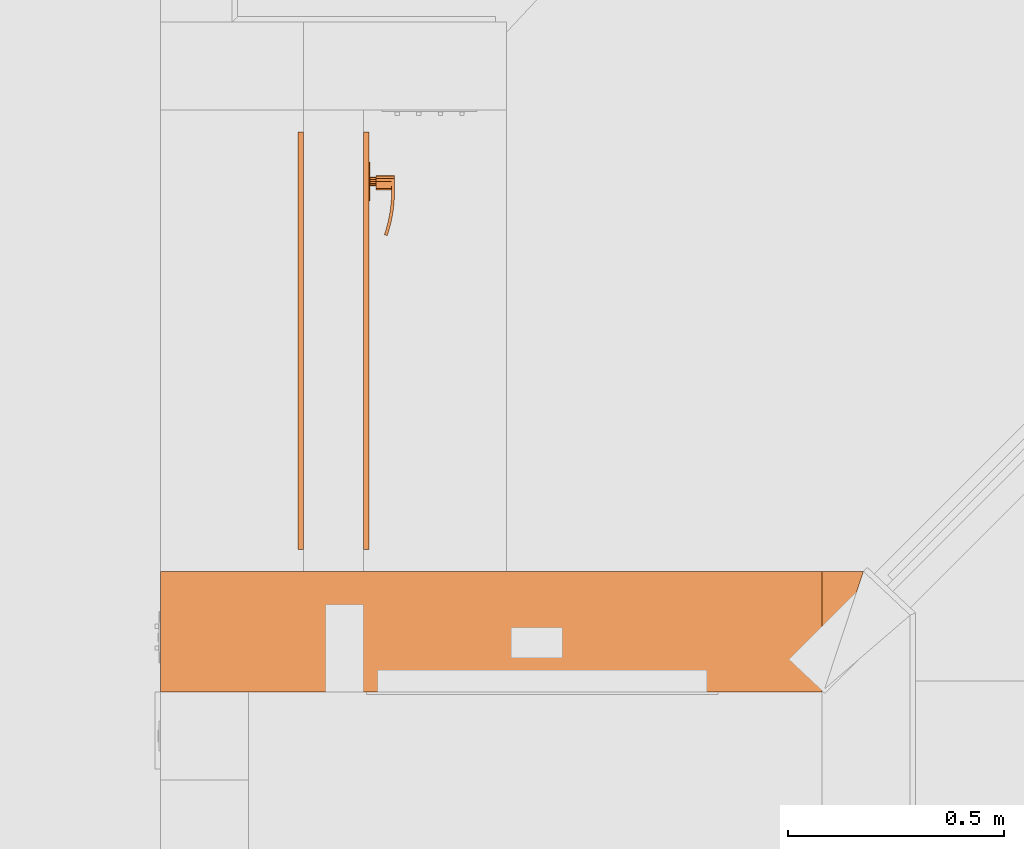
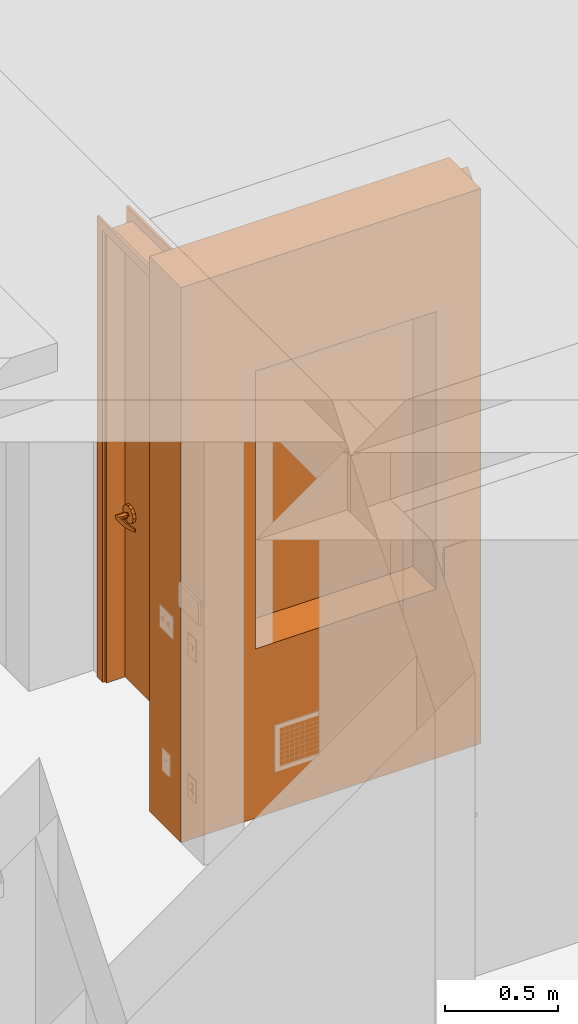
# One storey, part 88 of 103: 2 proxies.
"""IFC2X3 building model written with IfcOpenShell, lengths in inches."""

from ifc_helpers import new_model, entity, si_unit, converted_unit, derived_unit, money_unit, direction, frame, origin_with_axes, place, context, subcontext, project, spatial, open_shell, faceted_brep, surface_model, material, type_object, element, save


model = new_model("IFC2X3")

# Units and contexts
model_context = context("Model", 3, precision=0.00039370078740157, world=origin_with_axes(), true_north=direction((0.0, 1.0)))
plan_context = context("Plan", 3, precision=0.00039370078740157, world=origin_with_axes(), true_north=direction((0.0, 1.0)))
body_context = subcontext(model_context, "Body", "Model", "MODEL_VIEW")
ifc_project = project(units=[converted_unit("LENGTHUNIT", "INCH", entity("IfcPositiveLengthMeasure", 0.0254), si_unit("LENGTHUNIT", "METRE"), dimensions=[1, 0, 0, 0, 0, 0, 0]), converted_unit("AREAUNIT", "SQUARE_FOOT", entity("IfcPositiveLengthMeasure", 0.09290304), si_unit("AREAUNIT", "SQUARE_METRE"), dimensions=[2, 0, 0, 0, 0, 0, 0]), si_unit("PLANEANGLEUNIT", "RADIAN"), si_unit("SOLIDANGLEUNIT", "STERADIAN"), money_unit("USD"), converted_unit("TIMEUNIT", "Year", entity("IfcTimeMeasure", 31557600.0), si_unit("TIMEUNIT", "SECOND"), dimensions=[0, 0, 1, 0, 0, 0, 0]), si_unit("MASSUNIT", "GRAM", prefix="KILO"), si_unit("THERMODYNAMICTEMPERATUREUNIT", "DEGREE_CELSIUS"), si_unit("LUMINOUSINTENSITYUNIT", "LUMEN"), si_unit("ENERGYUNIT", "JOULE", prefix="MEGA"), derived_unit("SPECIFICHEATCAPACITYUNIT", [(si_unit("ENERGYUNIT", "JOULE"), 1), (si_unit("MASSUNIT", "GRAM", prefix="KILO"), -1), (si_unit("THERMODYNAMICTEMPERATUREUNIT", "KELVIN"), -1)])], contexts=[model_context, plan_context])

# Site, building, storey
site_placement = place(None, origin_with_axes())
site = spatial("IfcSite", under=ifc_project, at=site_placement, Name="Site", CompositionType="ELEMENT")
building_placement = place(site_placement, origin_with_axes())
building = spatial("IfcBuilding", under=site, at=building_placement, Name="Building", CompositionType="ELEMENT")
storey_placement = place(building_placement, frame((0.0, 0.0, 127.9999999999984), z_axis=(0.0, 0.0, 1.0), x_axis=(1.0, 0.0, 0.0)))
storey = spatial("IfcBuildingStorey", under=building, at=storey_placement, Name="Second Floor", CompositionType="ELEMENT", Elevation=128.0)

# Proxies
ifc_material = material(Name="Generic - Structural")
building_element_proxy_type_1 = type_object("IfcBuildingElementProxyType", Name="Generic - Structural 11\"", PredefinedType="NOTDEFINED")
proxy_1_placement = place(storey_placement, frame((-75.74999842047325, 447.9999999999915, 0.0), z_axis=(0.0, 0.0, 1.0), x_axis=(1.0, -6.402861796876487e-10, 0.0)))
element("IfcBuildingElementProxy", 1, at=proxy_1_placement, inside=storey, type_object=building_element_proxy_type_1, material=ifc_material, Name="SW - 116", context=body_context, shape_type="Brep", body=[
    faceted_brep([(60.24999842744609, -10.88896664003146, 114.7499999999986), (60.46611513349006, -10.70283947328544, 114.7499999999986), (63.99999218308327, -9.554460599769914e-06, 114.7499999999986), (60.24999709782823, -9.909607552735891e-06, 114.7499999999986), (60.46611524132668, -10.70283938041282, 0.0), (60.24999842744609, -10.88896664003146, 0.0), (63.99999819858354, 1.249121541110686e-08, 0.0), (0.0, -1.65082296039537e-09, 0.0), (0.0, 0.0, 117.9999999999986), (60.24999709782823, -9.909607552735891e-06, 117.9999999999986), (60.24999842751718, -10.99999996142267, 114.7499999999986), (60.24999813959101, -10.99999996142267, 117.9999999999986), (60.24999842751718, -10.99999996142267, 0.0), (-9.07418191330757e-07, -10.9999999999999, 0.0), (-9.07418191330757e-07, -10.99999999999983, 117.9999999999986), (14.99999999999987, -10.99999999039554, 94.9999999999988), (51.24999842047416, -10.99999996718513, 94.9999999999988), (51.24999842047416, -10.99999996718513, 35.99999999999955), (14.99999999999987, -10.99999999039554, 35.99999999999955), (14.99999999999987, -2.999999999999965, 94.9999999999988), (51.24999842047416, -2.999999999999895, 94.9999999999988), (51.24999842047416, -2.999999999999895, 35.99999999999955), (14.99999999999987, -2.999999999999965, 35.99999999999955)], [[[0, 1, 2, 3]], [[4, 1, 0, 5]], [[1, 4, 6, 2]], [[7, 8, 9, 3, 2, 6]], [[10, 0, 3, 9, 11]], [[0, 10, 12, 5]], [[5, 12, 13, 7, 6, 4]], [[7, 13, 14, 8]], [[8, 14, 11, 9]], [[12, 10, 11, 14, 13], [15, 16, 17, 18]], [[15, 19, 20, 16]], [[16, 20, 21, 17]], [[17, 21, 22, 18]], [[18, 22, 19, 15]], [[20, 19, 22, 21]]]),
])
building_element_proxy_type_2 = type_object("IfcBuildingElementProxyType", Name="D1", PredefinedType="NOTDEFINED")
proxy_2_placement = place(storey_placement, frame((-62.74999999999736, 485.9999999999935, 0.0), z_axis=(0.0, 0.0, 1.0), x_axis=(0.0, -1.0, 0.0)))
element("IfcBuildingElementProxy", 2, at=proxy_2_placement, inside=storey, type_object=building_element_proxy_type_2, Name="D-07", context=body_context, shape_type="SurfaceModel", body=[
    faceted_brep([(-2.0, -0.4999999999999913, 0.0), (-2.0, 0.0, 0.0), (0.0, 0.0, 0.0), (0.0, -0.4999999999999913, 0.0), (-2.0, -0.5, 97.99999999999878), (-2.0, 0.0, 97.99999999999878), (0.0, 0.0, 95.9999999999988), (0.0, -0.5, 95.9999999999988)], [[[0, 1, 2, 3]], [[4, 5, 1, 0]], [[1, 5, 6, 2]], [[3, 2, 6, 7]], [[0, 3, 7, 4]], [[7, 6, 5, 4]]]),
    faceted_brep([(35.99999999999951, -0.5, 97.99999999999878), (35.99999999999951, 0.0, 97.99999999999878), (33.99999999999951, 0.0, 95.9999999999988), (33.99999999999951, -0.5, 95.9999999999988), (35.99999999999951, -0.4999999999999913, 0.0), (35.99999999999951, 0.0, 0.0), (33.99999999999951, 0.0, 0.0), (33.99999999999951, -0.4999999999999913, 0.0)], [[[0, 1, 2, 3]], [[4, 5, 1, 0]], [[1, 5, 6, 2]], [[3, 2, 6, 7]], [[0, 3, 7, 4]], [[7, 6, 5, 4]]]),
    faceted_brep([(-2.0, -0.5, 97.99999999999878), (-2.0, 0.0, 97.99999999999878), (0.0, 0.0, 95.9999999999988), (0.0, -0.5, 95.9999999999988), (35.99999999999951, -0.5, 97.99999999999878), (35.99999999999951, 0.0, 97.99999999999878), (33.99999999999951, 0.0, 95.9999999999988), (33.99999999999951, -0.5, 95.9999999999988)], [[[0, 1, 2, 3]], [[4, 5, 1, 0]], [[1, 5, 6, 2]], [[3, 2, 6, 7]], [[0, 3, 7, 4]], [[7, 6, 5, 4]]]),
    faceted_brep([(-2.0, 5.99999999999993, 0.0), (0.0, 5.99999999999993, 0.0), (0.0, 5.49999999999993, 0.0), (-2.0, 5.49999999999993, 0.0), (-2.0, 5.999999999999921, 97.99999999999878), (0.0, 5.999999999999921, 95.9999999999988), (0.0, 5.49999999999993, 95.9999999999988), (-2.0, 5.49999999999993, 97.99999999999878)], [[[0, 1, 2, 3]], [[0, 4, 5, 1]], [[1, 5, 6, 2]], [[3, 2, 6, 7]], [[4, 0, 3, 7]], [[5, 4, 7, 6]]]),
    faceted_brep([(35.99999999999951, 5.999999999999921, 97.99999999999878), (33.99999999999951, 5.999999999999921, 95.9999999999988), (33.99999999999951, 5.49999999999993, 95.9999999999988), (35.99999999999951, 5.49999999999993, 97.99999999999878), (35.99999999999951, 5.99999999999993, 0.0), (33.99999999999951, 5.99999999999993, 0.0), (33.99999999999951, 5.499999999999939, 0.0), (35.99999999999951, 5.499999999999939, 0.0)], [[[0, 1, 2, 3]], [[0, 4, 5, 1]], [[1, 5, 6, 2]], [[3, 2, 6, 7]], [[4, 0, 3, 7]], [[5, 4, 7, 6]]]),
    faceted_brep([(-2.0, 5.999999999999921, 97.99999999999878), (0.0, 5.999999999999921, 95.9999999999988), (0.0, 5.49999999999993, 95.9999999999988), (-2.0, 5.49999999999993, 97.99999999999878), (35.99999999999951, 5.999999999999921, 97.99999999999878), (33.99999999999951, 5.999999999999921, 95.9999999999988), (33.99999999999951, 5.49999999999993, 95.9999999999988), (35.99999999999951, 5.49999999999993, 97.99999999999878)], [[[0, 1, 2, 3]], [[0, 4, 5, 1]], [[1, 5, 6, 2]], [[3, 2, 6, 7]], [[4, 0, 3, 7]], [[5, 4, 7, 6]]]),
    faceted_brep([(0.0, 5.49999999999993, 0.0), (0.4999999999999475, 5.49999999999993, 0.0), (0.4999999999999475, 0.0, 0.0), (0.0, 0.0, 0.0), (0.0, 5.499999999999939, 95.49999999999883), (0.4999999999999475, 5.499999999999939, 95.49999999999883), (0.4999999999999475, 0.0, 95.49999999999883), (0.0, 0.0, 95.49999999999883)], [[[0, 1, 2, 3]], [[0, 4, 5, 1]], [[1, 5, 6, 2]], [[3, 2, 6, 7]], [[4, 0, 3, 7]], [[5, 4, 7, 6]]]),
    faceted_brep([(33.99999999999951, 5.499999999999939, 0.0), (33.99999999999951, 5.499999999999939, 95.49999999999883), (33.99999999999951, 0.0, 95.49999999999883), (33.99999999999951, 0.0, 0.0), (33.49999999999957, 5.499999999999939, 0.0), (33.49999999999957, 5.499999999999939, 95.49999999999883), (33.49999999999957, 0.0, 95.49999999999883), (33.49999999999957, 0.0, 0.0)], [[[0, 1, 2, 3]], [[0, 4, 5, 1]], [[1, 5, 6, 2]], [[3, 2, 6, 7]], [[4, 0, 3, 7]], [[5, 4, 7, 6]]]),
    faceted_brep([(0.0, 5.499999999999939, 95.9999999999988), (0.0, 5.499999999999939, 95.49999999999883), (0.0, 0.0, 95.49999999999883), (0.0, 0.0, 95.9999999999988), (33.99999999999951, 5.499999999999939, 95.9999999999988), (33.99999999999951, 5.499999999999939, 95.49999999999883), (33.49999999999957, 5.499999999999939, 95.49999999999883), (0.4999999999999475, 5.499999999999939, 95.49999999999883), (0.4999999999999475, 0.0, 95.49999999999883), (33.49999999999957, 0.0, 95.49999999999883), (33.99999999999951, 0.0, 95.49999999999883), (33.99999999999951, 0.0, 95.9999999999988)], [[[0, 1, 2, 3]], [[0, 4, 5, 6, 7, 1]], [[1, 7, 8, 2]], [[3, 2, 8, 9, 10, 11]], [[4, 0, 3, 11]], [[5, 4, 11, 10]], [[6, 5, 10, 9]], [[7, 6, 9, 8]]]),
    surface_model("IfcShellBasedSurfaceModel", [(4.051344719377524, 3.159448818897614, 36.89566929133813), (4.291338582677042, 3.159448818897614, 35.99999999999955), (4.291338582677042, 3.163385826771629, 35.99999999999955), (4.051344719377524, 3.163385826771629, 36.89566929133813), (3.39566929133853, 3.159448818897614, 37.55134471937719), (2.499999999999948, 3.159448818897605, 37.79133858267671), (1.604330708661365, 3.159448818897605, 37.55134471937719), (0.9486552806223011, 3.159448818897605, 36.89566929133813), (0.7086614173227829, 3.159448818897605, 35.99999999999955), (0.9486552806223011, 3.159448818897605, 35.104330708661), (1.604330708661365, 3.159448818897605, 34.44865528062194), (2.499999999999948, 3.159448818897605, 34.20866141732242), (3.39566929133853, 3.159448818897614, 34.44865528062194), (4.051344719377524, 3.159448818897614, 35.104330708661), (4.051344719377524, 3.163385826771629, 35.104330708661), (4.291338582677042, 3.74606299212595, 35.99999999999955), (4.051344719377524, 3.74606299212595, 36.89566929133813), (3.39566929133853, 3.163385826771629, 37.55134471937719), (2.499999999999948, 3.16338582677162, 37.79133858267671), (1.604330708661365, 3.16338582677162, 37.55134471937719), (0.9486552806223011, 3.16338582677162, 36.89566929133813), (0.7086614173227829, 3.16338582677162, 35.99999999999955), (0.9486552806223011, 3.16338582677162, 35.104330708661), (1.604330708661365, 3.16338582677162, 34.44865528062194), (2.499999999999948, 3.16338582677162, 34.20866141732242), (3.39566929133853, 3.163385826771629, 34.44865528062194), (4.051344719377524, 3.74606299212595, 35.104330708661), (4.291338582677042, 3.749999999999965, 35.99999999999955), (4.051344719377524, 3.749999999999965, 36.89566929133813), (3.39566929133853, 3.74606299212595, 37.55134471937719), (2.499999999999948, 3.746062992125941, 37.79133858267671), (1.604330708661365, 3.746062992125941, 37.55134471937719), (0.9486552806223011, 3.746062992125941, 36.89566929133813), (0.7086614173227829, 3.746062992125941, 35.99999999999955), (0.9486552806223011, 3.746062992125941, 35.104330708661), (1.604330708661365, 3.746062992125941, 34.44865528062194), (2.499999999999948, 3.746062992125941, 34.20866141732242), (3.39566929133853, 3.74606299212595, 34.44865528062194), (4.051344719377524, 3.749999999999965, 35.104330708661), (3.39566929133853, 3.749999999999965, 37.55134471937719), (2.499999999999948, 3.749999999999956, 37.79133858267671), (1.604330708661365, 3.749999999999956, 37.55134471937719), (0.9486552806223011, 3.749999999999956, 36.89566929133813), (0.7086614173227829, 3.749999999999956, 35.99999999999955), (0.9486552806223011, 3.749999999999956, 35.104330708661), (1.604330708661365, 3.749999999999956, 34.44865528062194), (2.499999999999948, 3.749999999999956, 34.20866141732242), (3.39566929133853, 3.749999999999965, 34.44865528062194)], [open_shell([[[0, 1, 2, 3]], [[1, 0, 4, 5, 6, 7, 8, 9, 10, 11, 12, 13]], [[1, 13, 14, 2]], [[3, 2, 15, 16]], [[4, 0, 3, 17]], [[5, 4, 17, 18]], [[6, 5, 18, 19]], [[7, 6, 19, 20]], [[8, 7, 20, 21]], [[9, 8, 21, 22]], [[10, 9, 22, 23]], [[11, 10, 23, 24]], [[12, 11, 24, 25]], [[13, 12, 25, 14]], [[2, 14, 26, 15]], [[16, 15, 27, 28]], [[17, 3, 16, 29]], [[18, 17, 29, 30]], [[19, 18, 30, 31]], [[20, 19, 31, 32]], [[21, 20, 32, 33]], [[22, 21, 33, 34]], [[23, 22, 34, 35]], [[24, 23, 35, 36]], [[25, 24, 36, 37]], [[14, 25, 37, 26]], [[15, 26, 38, 27]], [[29, 16, 28, 39]], [[30, 29, 39, 40]], [[31, 30, 40, 41]], [[32, 31, 41, 42]], [[33, 32, 42, 43]], [[34, 33, 43, 44]], [[35, 34, 44, 45]], [[36, 35, 45, 46]], [[37, 36, 46, 47]], [[26, 37, 47, 38]]])]),
    faceted_brep([(2.303149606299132, 3.159448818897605, 35.65904511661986), (2.159045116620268, 3.159448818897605, 35.80314960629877), (2.106299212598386, 3.159448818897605, 35.99999999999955), (2.159045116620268, 3.159448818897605, 36.19685039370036), (2.303149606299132, 3.159448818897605, 36.34095488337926), (2.499999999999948, 3.159448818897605, 36.39370078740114), (2.696850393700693, 3.159448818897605, 36.34095488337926), (2.840954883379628, 3.159448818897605, 36.19685039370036), (2.893700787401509, 3.159448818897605, 35.99999999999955), (2.840954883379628, 3.159448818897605, 35.80314960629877), (2.696850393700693, 3.159448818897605, 35.65904511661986), (2.499999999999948, 3.159448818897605, 35.60629921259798), (2.303149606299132, 2.647637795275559, 35.65904511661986), (2.159045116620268, 2.647637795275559, 35.80314960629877), (2.106299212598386, 2.647637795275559, 35.99999999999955), (2.159045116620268, 2.647637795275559, 36.19685039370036), (2.303149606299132, 2.647637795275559, 36.34095488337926), (2.499999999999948, 2.647637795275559, 36.39370078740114), (2.696850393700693, 2.647637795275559, 36.34095488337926), (2.840954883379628, 2.647637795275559, 36.19685039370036), (2.893700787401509, 2.647637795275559, 35.99999999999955), (2.840954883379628, 2.647637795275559, 35.80314960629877), (2.696850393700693, 2.647637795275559, 35.65904511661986), (2.499999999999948, 2.647637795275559, 35.60629921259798)], [[[0, 1, 2, 3, 4, 5, 6, 7, 8, 9, 10, 11]], [[1, 0, 12, 13]], [[2, 1, 13, 14]], [[3, 2, 14, 15]], [[4, 3, 15, 16]], [[5, 4, 16, 17]], [[6, 5, 17, 18]], [[7, 6, 18, 19]], [[8, 7, 19, 20]], [[9, 8, 20, 21]], [[10, 9, 21, 22]], [[11, 10, 22, 23]], [[0, 11, 23, 12]], [[12, 23, 22, 21, 20, 19, 18, 17, 16, 15, 14, 13]]]),
    faceted_brep([(2.499999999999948, 2.647637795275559, 36.55118110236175), (2.224409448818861, 2.647637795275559, 36.47733683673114), (2.224409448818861, 1.230314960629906, 36.47733683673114), (2.499999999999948, 1.230314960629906, 36.55118110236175), (2.893700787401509, 2.647637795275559, 36.47244094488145), (3.126478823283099, 2.647637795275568, 36.35358914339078), (3.262948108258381, 2.647637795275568, 36.13068221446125), (3.262948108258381, 2.647637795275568, 35.86931778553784), (3.126478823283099, 2.647637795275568, 35.64641085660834), (2.893700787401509, 2.647637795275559, 35.52755905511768), (2.499999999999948, 2.647637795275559, 35.44881889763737), (2.224409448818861, 2.647637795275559, 35.52266316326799), (2.022663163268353, 2.647637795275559, 35.72440944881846), (1.948818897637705, 2.647637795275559, 35.99999999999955), (2.022663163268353, 2.647637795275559, 36.27559055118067), (2.022663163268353, 1.230314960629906, 36.27559055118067), (1.948818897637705, 1.230314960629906, 35.99999999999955), (2.022663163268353, 1.230314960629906, 35.72440944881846), (2.224409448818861, 1.230314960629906, 35.52266316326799), (2.499999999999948, 1.230314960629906, 35.44881889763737), (2.893700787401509, 1.230314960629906, 35.52755905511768), (3.126478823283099, 1.230314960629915, 35.64641085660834), (3.262948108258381, 1.230314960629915, 35.86931778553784), (3.262948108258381, 1.230314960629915, 36.13068221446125), (3.126478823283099, 1.230314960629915, 36.35358914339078), (2.893700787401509, 1.230314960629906, 36.47244094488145)], [[[0, 1, 2, 3]], [[0, 4, 5, 6, 7, 8, 9, 10, 11, 12, 13, 14, 1]], [[1, 14, 15, 2]], [[3, 2, 15, 16, 17, 18, 19, 20, 21, 22, 23, 24, 25]], [[4, 0, 3, 25]], [[5, 4, 25, 24]], [[6, 5, 24, 23]], [[7, 6, 23, 22]], [[8, 7, 22, 21]], [[9, 8, 21, 20]], [[10, 9, 20, 19]], [[11, 10, 19, 18]], [[12, 11, 18, 17]], [[13, 12, 17, 16]], [[14, 13, 16, 15]]]),
    surface_model("IfcShellBasedSurfaceModel", [(2.499999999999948, 1.230314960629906, 36.55118110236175), (2.224409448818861, 1.230314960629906, 36.47733683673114), (2.224409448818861, 0.9547244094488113, 36.47733683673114), (2.499999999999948, 0.9547244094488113, 36.55118110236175), (3.484251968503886, 1.230314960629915, 36.55118110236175), (3.484251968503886, 1.230314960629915, 35.44881889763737), (2.499999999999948, 1.230314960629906, 35.44881889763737), (2.224409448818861, 1.230314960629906, 35.52266316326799), (2.022663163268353, 1.230314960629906, 35.72440944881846), (1.948818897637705, 1.230314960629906, 35.99999999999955), (2.022663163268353, 1.230314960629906, 36.27559055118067), (2.022663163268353, 0.9547244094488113, 36.27559055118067), (1.948818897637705, 0.9547244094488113, 35.99999999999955), (2.022663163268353, 0.9547244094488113, 35.72440944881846), (2.224409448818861, 0.9547244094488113, 35.52266316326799), (2.499999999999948, 0.9547244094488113, 35.44881889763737), (3.484251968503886, 0.9547244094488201, 35.44881889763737), (3.484251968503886, 0.9547244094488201, 36.55118110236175)], [open_shell([[[0, 1, 2, 3]], [[0, 4, 5, 6, 7, 8, 9, 10, 1]], [[1, 10, 11, 2]], [[3, 2, 11, 12, 13, 14, 15, 16, 17]], [[4, 0, 3, 17]], [[6, 5, 16, 15]], [[7, 6, 15, 14]], [[8, 7, 14, 13]], [[9, 8, 13, 12]], [[10, 9, 12, 11]]])]),
    surface_model("IfcShellBasedSurfaceModel", [(3.484251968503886, 1.230314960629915, 35.44881889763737), (3.999932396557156, 1.230314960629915, 35.47974008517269), (4.011964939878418, 0.9547244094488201, 35.47974008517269), (3.484251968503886, 1.230314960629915, 36.55118110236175), (3.999932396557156, 1.230314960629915, 36.52025991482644), (5.063374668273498, 1.046710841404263, 35.54158246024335), (3.484251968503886, 0.9547244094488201, 35.44881889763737), (3.484251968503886, 0.9547244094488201, 36.55118110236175), (5.02736861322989, 1.32020398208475, 36.45841753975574), (5.02736861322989, 1.32020398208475, 35.54158246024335), (5.063374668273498, 1.046710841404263, 36.45841753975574), (4.011964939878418, 0.9547244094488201, 36.52025991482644), (6.043060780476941, 1.499297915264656, 36.39657516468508), (6.043060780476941, 1.499297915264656, 35.60342483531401), (6.10276631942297, 1.229983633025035, 35.60342483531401), (6.10276631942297, 1.229983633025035, 36.39657516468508), (7.03927886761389, 1.766233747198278, 36.33473278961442), (7.03927886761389, 1.766233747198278, 35.66526721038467), (7.122229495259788, 1.503147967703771, 35.66526721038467), (7.122229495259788, 1.503147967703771, 36.33473278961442), (7.349234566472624, 1.879048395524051, 36.3149606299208), (7.349234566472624, 1.879048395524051, 35.68503937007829), (7.439417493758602, 1.618594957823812, 35.68503937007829), (7.439417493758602, 1.618594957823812, 36.3149606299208)], [open_shell([[[0, 1, 2]], [[0, 3, 4, 1]], [[1, 5, 2]], [[0, 2, 6]], [[4, 3, 7]], [[1, 4, 8, 9]], [[1, 9, 5]], [[2, 5, 10, 11]], [[6, 2, 11, 7]], [[4, 7, 11]], [[8, 4, 11]], [[9, 8, 12, 13]], [[9, 14, 5]], [[5, 14, 15, 10]], [[8, 11, 10]], [[12, 8, 10]], [[13, 12, 16, 17]], [[9, 13, 14]], [[14, 18, 19, 15]], [[12, 10, 15]], [[16, 12, 15]], [[17, 16, 20, 21]], [[13, 17, 18]], [[13, 18, 14]], [[18, 22, 23, 19]], [[16, 15, 19]], [[20, 16, 19]], [[21, 20, 23, 22]], [[17, 21, 22]], [[17, 22, 18]], [[20, 19, 23]]])]),
    surface_model("IfcShellBasedSurfaceModel", [(4.051344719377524, 6.090551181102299, 36.89566929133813), (4.051344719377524, 6.086614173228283, 36.89566929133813), (4.291338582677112, 6.086614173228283, 35.99999999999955), (4.291338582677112, 6.090551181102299, 35.99999999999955), (3.39566929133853, 6.090551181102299, 37.55134471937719), (3.39566929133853, 6.086614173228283, 37.55134471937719), (4.051344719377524, 5.503937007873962, 36.89566929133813), (4.291338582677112, 5.503937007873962, 35.99999999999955), (4.051344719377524, 6.086614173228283, 35.104330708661), (4.051344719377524, 6.090551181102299, 35.104330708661), (3.39566929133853, 6.090551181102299, 34.44865528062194), (2.499999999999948, 6.09055118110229, 34.20866141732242), (1.604330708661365, 6.09055118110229, 34.44865528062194), (0.9486552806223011, 6.09055118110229, 35.104330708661), (0.7086614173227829, 6.09055118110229, 35.99999999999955), (0.9486552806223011, 6.09055118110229, 36.89566929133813), (1.604330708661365, 6.09055118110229, 37.55134471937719), (2.499999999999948, 6.09055118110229, 37.79133858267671), (2.499999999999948, 6.086614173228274, 37.79133858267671), (3.39566929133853, 5.503937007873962, 37.55134471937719), (4.051344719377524, 5.499999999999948, 36.89566929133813), (4.291338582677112, 5.499999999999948, 35.99999999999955), (4.051344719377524, 5.503937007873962, 35.104330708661), (3.39566929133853, 6.086614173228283, 34.44865528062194), (2.499999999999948, 6.086614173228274, 34.20866141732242), (1.604330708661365, 6.086614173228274, 34.44865528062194), (0.9486552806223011, 6.086614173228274, 35.104330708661), (0.7086614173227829, 6.086614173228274, 35.99999999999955), (0.9486552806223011, 6.086614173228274, 36.89566929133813), (1.604330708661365, 6.086614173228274, 37.55134471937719), (2.499999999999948, 5.503937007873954, 37.79133858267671), (3.39566929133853, 5.499999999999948, 37.55134471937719), (4.051344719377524, 5.499999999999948, 35.104330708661), (3.39566929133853, 5.503937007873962, 34.44865528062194), (2.499999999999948, 5.503937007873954, 34.20866141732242), (1.604330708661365, 5.503937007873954, 34.44865528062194), (0.9486552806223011, 5.503937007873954, 35.104330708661), (0.7086614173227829, 5.503937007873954, 35.99999999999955), (0.9486552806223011, 5.503937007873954, 36.89566929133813), (1.604330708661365, 5.503937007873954, 37.55134471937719), (2.499999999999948, 5.499999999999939, 37.79133858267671), (3.39566929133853, 5.499999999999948, 34.44865528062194), (2.499999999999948, 5.499999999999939, 34.20866141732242), (1.604330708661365, 5.499999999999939, 34.44865528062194), (0.9486552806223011, 5.499999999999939, 35.104330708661), (0.7086614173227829, 5.499999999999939, 35.99999999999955), (0.9486552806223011, 5.499999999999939, 36.89566929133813), (1.604330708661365, 5.499999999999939, 37.55134471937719)], [open_shell([[[0, 1, 2, 3]], [[4, 5, 1, 0]], [[1, 6, 7, 2]], [[3, 2, 8, 9]], [[3, 9, 10, 11, 12, 13, 14, 15, 16, 17, 4, 0]], [[17, 18, 5, 4]], [[5, 19, 6, 1]], [[6, 20, 21, 7]], [[2, 7, 22, 8]], [[9, 8, 23, 10]], [[10, 23, 24, 11]], [[11, 24, 25, 12]], [[12, 25, 26, 13]], [[13, 26, 27, 14]], [[14, 27, 28, 15]], [[15, 28, 29, 16]], [[16, 29, 18, 17]], [[18, 30, 19, 5]], [[19, 31, 20, 6]], [[7, 21, 32, 22]], [[8, 22, 33, 23]], [[23, 33, 34, 24]], [[24, 34, 35, 25]], [[25, 35, 36, 26]], [[26, 36, 37, 27]], [[27, 37, 38, 28]], [[28, 38, 39, 29]], [[29, 39, 30, 18]], [[30, 40, 31, 19]], [[22, 32, 41, 33]], [[33, 41, 42, 34]], [[34, 42, 43, 35]], [[35, 43, 44, 36]], [[36, 44, 45, 37]], [[37, 45, 46, 38]], [[38, 46, 47, 39]], [[39, 47, 40, 30]]])]),
    faceted_brep([(2.303149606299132, 6.09055118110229, 35.65904511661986), (2.499999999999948, 6.09055118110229, 35.60629921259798), (2.696850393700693, 6.09055118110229, 35.65904511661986), (2.840954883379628, 6.09055118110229, 35.80314960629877), (2.893700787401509, 6.09055118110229, 35.99999999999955), (2.840954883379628, 6.09055118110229, 36.19685039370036), (2.696850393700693, 6.09055118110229, 36.34095488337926), (2.499999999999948, 6.09055118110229, 36.39370078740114), (2.303149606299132, 6.09055118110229, 36.34095488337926), (2.159045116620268, 6.09055118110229, 36.19685039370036), (2.106299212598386, 6.09055118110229, 35.99999999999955), (2.159045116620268, 6.09055118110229, 35.80314960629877), (2.303149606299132, 6.602362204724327, 35.65904511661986), (2.499999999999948, 6.602362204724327, 35.60629921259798), (2.696850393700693, 6.602362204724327, 35.65904511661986), (2.840954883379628, 6.602362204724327, 35.80314960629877), (2.893700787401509, 6.602362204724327, 35.99999999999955), (2.840954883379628, 6.602362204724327, 36.19685039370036), (2.696850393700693, 6.602362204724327, 36.34095488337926), (2.499999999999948, 6.602362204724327, 36.39370078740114), (2.303149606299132, 6.602362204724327, 36.34095488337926), (2.159045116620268, 6.602362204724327, 36.19685039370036), (2.106299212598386, 6.602362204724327, 35.99999999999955), (2.159045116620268, 6.602362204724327, 35.80314960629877)], [[[0, 1, 2, 3, 4, 5, 6, 7, 8, 9, 10, 11]], [[0, 12, 13, 1]], [[1, 13, 14, 2]], [[2, 14, 15, 3]], [[3, 15, 16, 4]], [[4, 16, 17, 5]], [[5, 17, 18, 6]], [[6, 18, 19, 7]], [[7, 19, 20, 8]], [[8, 20, 21, 9]], [[9, 21, 22, 10]], [[10, 22, 23, 11]], [[11, 23, 12, 0]], [[12, 23, 22, 21, 20, 19, 18, 17, 16, 15, 14, 13]]]),
    faceted_brep([(2.499999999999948, 6.602362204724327, 36.55118110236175), (2.499999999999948, 8.01968503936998, 36.55118110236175), (2.224409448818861, 8.01968503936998, 36.47733683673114), (2.224409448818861, 6.602362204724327, 36.47733683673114), (2.893700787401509, 6.602362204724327, 36.47244094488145), (2.893700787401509, 8.01968503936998, 36.47244094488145), (3.126478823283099, 8.019685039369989, 36.35358914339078), (3.262948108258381, 8.019685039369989, 36.13068221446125), (3.262948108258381, 8.019685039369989, 35.86931778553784), (3.126478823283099, 8.019685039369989, 35.64641085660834), (2.893700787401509, 8.01968503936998, 35.52755905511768), (2.499999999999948, 8.01968503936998, 35.44881889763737), (2.224409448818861, 8.01968503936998, 35.52266316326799), (2.022663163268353, 8.01968503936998, 35.72440944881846), (1.948818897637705, 8.01968503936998, 35.99999999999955), (2.022663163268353, 8.01968503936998, 36.27559055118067), (2.022663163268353, 6.602362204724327, 36.27559055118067), (1.948818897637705, 6.602362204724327, 35.99999999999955), (2.022663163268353, 6.602362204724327, 35.72440944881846), (2.224409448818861, 6.602362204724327, 35.52266316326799), (2.499999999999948, 6.602362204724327, 35.44881889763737), (2.893700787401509, 6.602362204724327, 35.52755905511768), (3.126478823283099, 6.602362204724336, 35.64641085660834), (3.262948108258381, 6.602362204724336, 35.86931778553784), (3.262948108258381, 6.602362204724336, 36.13068221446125), (3.126478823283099, 6.602362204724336, 36.35358914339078)], [[[0, 1, 2, 3]], [[4, 5, 1, 0]], [[1, 5, 6, 7, 8, 9, 10, 11, 12, 13, 14, 15, 2]], [[3, 2, 15, 16]], [[0, 3, 16, 17, 18, 19, 20, 21, 22, 23, 24, 25, 4]], [[25, 6, 5, 4]], [[24, 7, 6, 25]], [[23, 8, 7, 24]], [[22, 9, 8, 23]], [[21, 10, 9, 22]], [[20, 11, 10, 21]], [[19, 12, 11, 20]], [[18, 13, 12, 19]], [[17, 14, 13, 18]], [[16, 15, 14, 17]]]),
    surface_model("IfcShellBasedSurfaceModel", [(2.499999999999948, 8.01968503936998, 36.55118110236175), (2.499999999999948, 8.295275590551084, 36.55118110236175), (2.224409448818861, 8.295275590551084, 36.47733683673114), (2.224409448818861, 8.01968503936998, 36.47733683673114), (3.484251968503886, 8.019685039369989, 36.55118110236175), (3.484251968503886, 8.295275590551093, 36.55118110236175), (3.484251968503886, 8.295275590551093, 35.44881889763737), (2.499999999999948, 8.295275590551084, 35.44881889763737), (2.224409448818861, 8.295275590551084, 35.52266316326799), (2.022663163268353, 8.295275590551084, 35.72440944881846), (1.948818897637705, 8.295275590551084, 35.99999999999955), (2.022663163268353, 8.295275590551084, 36.27559055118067), (2.022663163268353, 8.01968503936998, 36.27559055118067), (1.948818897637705, 8.01968503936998, 35.99999999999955), (2.022663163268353, 8.01968503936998, 35.72440944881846), (2.224409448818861, 8.01968503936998, 35.52266316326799), (2.499999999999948, 8.01968503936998, 35.44881889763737), (3.484251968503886, 8.019685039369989, 35.44881889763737)], [open_shell([[[0, 1, 2, 3]], [[4, 5, 1, 0]], [[1, 5, 6, 7, 8, 9, 10, 11, 2]], [[3, 2, 11, 12]], [[0, 3, 12, 13, 14, 15, 16, 17, 4]], [[16, 7, 6, 17]], [[15, 8, 7, 16]], [[14, 9, 8, 15]], [[13, 10, 9, 14]], [[12, 11, 10, 13]]])]),
    surface_model("IfcShellBasedSurfaceModel", [(3.484251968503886, 8.019685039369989, 35.44881889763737), (4.011964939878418, 8.295275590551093, 35.47974008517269), (3.999932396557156, 8.019685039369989, 35.47974008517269), (3.484251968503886, 8.295275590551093, 35.44881889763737), (5.063374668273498, 8.20328915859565, 35.54158246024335), (3.999932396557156, 8.019685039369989, 36.52025991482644), (3.484251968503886, 8.019685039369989, 36.55118110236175), (3.484251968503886, 8.295275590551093, 36.55118110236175), (4.011964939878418, 8.295275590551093, 36.52025991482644), (5.063374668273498, 8.20328915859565, 36.45841753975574), (5.02736861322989, 7.929796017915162, 35.54158246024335), (5.02736861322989, 7.929796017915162, 36.45841753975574), (6.10276631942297, 8.020016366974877, 36.39657516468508), (6.10276631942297, 8.020016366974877, 35.60342483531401), (6.043060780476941, 7.750702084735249, 35.60342483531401), (6.043060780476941, 7.750702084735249, 36.39657516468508), (7.122229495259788, 7.746852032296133, 36.33473278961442), (7.122229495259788, 7.746852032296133, 35.66526721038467), (7.03927886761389, 7.483766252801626, 35.66526721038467), (7.03927886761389, 7.483766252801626, 36.33473278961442), (7.439417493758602, 7.631405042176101, 36.3149606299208), (7.439417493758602, 7.631405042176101, 35.68503937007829), (7.349234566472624, 7.370951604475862, 35.68503937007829), (7.349234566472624, 7.370951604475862, 36.3149606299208)], [open_shell([[[0, 1, 2]], [[0, 3, 1]], [[2, 1, 4]], [[0, 2, 5, 6]], [[3, 7, 8, 1]], [[1, 8, 9, 4]], [[2, 4, 10]], [[2, 10, 11, 5]], [[5, 7, 6]], [[5, 8, 7]], [[11, 9, 8]], [[4, 9, 12, 13]], [[10, 4, 13]], [[10, 14, 15, 11]], [[11, 8, 5]], [[15, 9, 11]], [[15, 12, 9]], [[13, 12, 16, 17]], [[10, 13, 14]], [[14, 18, 19, 15]], [[19, 12, 15]], [[19, 16, 12]], [[17, 16, 20, 21]], [[14, 13, 17]], [[14, 17, 18]], [[18, 22, 23, 19]], [[23, 16, 19]], [[23, 20, 16]], [[22, 21, 20, 23]], [[18, 17, 21]], [[18, 21, 22]]])]),
    faceted_brep([(0.5393700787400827, 3.749999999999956, 0.03937007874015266), (33.46062992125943, 3.749999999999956, 0.03937007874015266), (33.46062992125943, 3.749999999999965, 95.46062992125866), (0.5393700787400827, 3.749999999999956, 95.46062992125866), (33.46062992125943, 5.499999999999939, 0.03937007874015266), (0.5393700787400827, 5.49999999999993, 0.03937007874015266), (33.46062992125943, 5.499999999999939, 95.46062992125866), (0.5393700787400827, 5.499999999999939, 95.46062992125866)], [[[0, 1, 2, 3]], [[4, 1, 0, 5]], [[1, 4, 6, 2]], [[2, 6, 7, 3]], [[5, 0, 3, 7]], [[4, 5, 7, 6]]]),
    faceted_brep([(33.49999999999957, 5.499999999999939, 0.0), (33.49999999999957, 3.749999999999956, 0.0), (0.4999999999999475, 3.749999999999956, 0.0), (0.4999999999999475, 5.49999999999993, 0.0), (33.49999999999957, 5.499999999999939, 95.49999999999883), (33.49999999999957, 3.749999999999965, 95.49999999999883), (0.4999999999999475, 3.749999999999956, 95.49999999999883), (33.46062992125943, 3.749999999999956, 0.03937007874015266), (0.5393700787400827, 3.749999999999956, 0.03937007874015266), (0.5393700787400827, 3.749999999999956, 95.46062992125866), (33.46062992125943, 3.749999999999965, 95.46062992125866), (0.4999999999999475, 5.499999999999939, 95.49999999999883), (33.46062992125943, 5.499999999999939, 0.03937007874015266), (33.46062992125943, 5.499999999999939, 95.46062992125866), (0.5393700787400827, 5.499999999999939, 95.46062992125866), (0.5393700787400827, 5.49999999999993, 0.03937007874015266)], [[[0, 1, 2, 3]], [[4, 5, 1, 0]], [[1, 5, 6, 2], [7, 8, 9, 10]], [[3, 2, 6, 11]], [[0, 3, 11, 4], [12, 13, 14, 15]], [[11, 6, 5, 4]], [[15, 8, 7, 12]], [[14, 9, 8, 15]], [[13, 10, 9, 14]], [[12, 7, 10, 13]]]),
])

save(model, "model.ifc")
